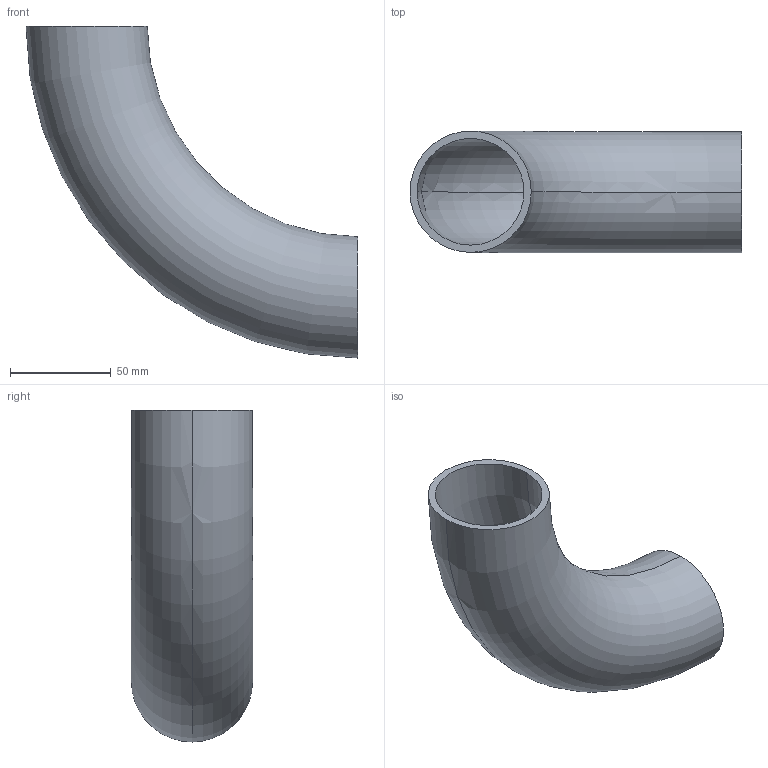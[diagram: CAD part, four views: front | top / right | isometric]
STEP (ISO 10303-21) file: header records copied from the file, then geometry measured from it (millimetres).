
FILE_DESCRIPTION (( 'STEP AP203' ), '1' );
FILE_NAME ('3D_R1655_60.3x3.6_17362230.STEP', '2024-08-05T08:55:19', ( '' ), ( '' ), 'SwSTEP 2.0', 'SolidWorks 2024', '' );
FILE_SCHEMA (( 'CONFIG_CONTROL_DESIGN' ));
Length unit declared in the file: millimetre
Products named in the file (1): 3D_R1655_60.3x3.6_17362230
Bounding box: 165.15 x 60.3 x 165.15 mm (x, y, z)
Volume: 135984.4 mm3; surface area: 76829.4 mm2
Topology: 1 solids, 1 shells, 6 faces, 12 edges, 8 vertices
Faces by surface type: torus 4, plane 2
Entity records: 249 total; most frequent: DIRECTION 38, CARTESIAN_POINT 27, ORIENTED_EDGE 24, AXIS2_PLACEMENT_3D 19, CIRCLE 12, EDGE_CURVE 12, PERSON_AND_ORGANIZATION 8, VERTEX_POINT 8
